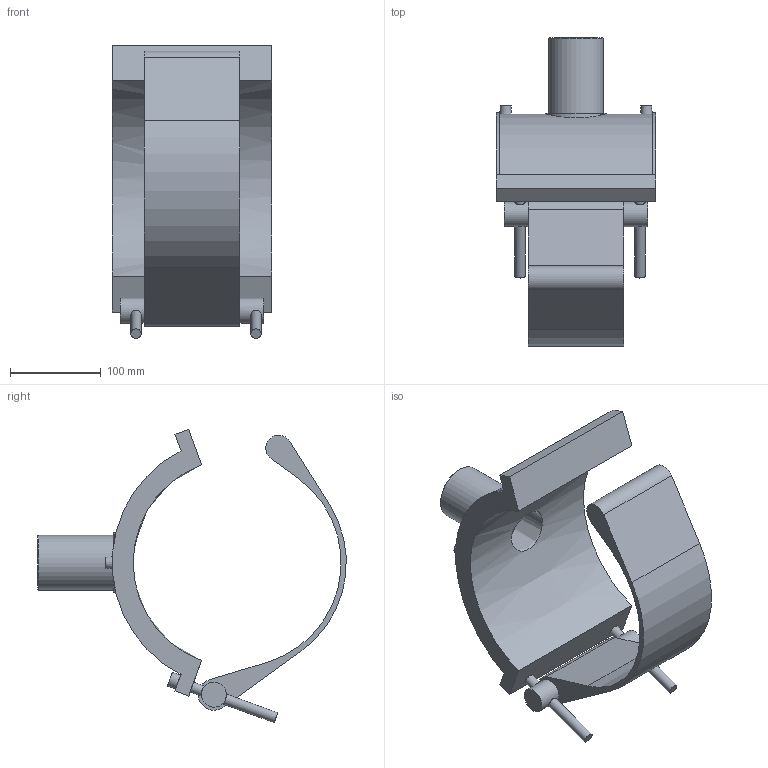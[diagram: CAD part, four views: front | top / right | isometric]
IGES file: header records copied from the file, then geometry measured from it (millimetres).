
Global section: file name: 5958DB03080020.ipt; native system: Autodesk Inventor 2019; preprocessor: unknown; author: KIM; date: 20210830.101323; units: inch
Bounding box: 176.02 x 339.32 x 322.64 mm (x, y, z)
Volume: 1863849.6 mm3; surface area: 285550.9 mm2
Topology: 1 solids, 1 shells, 57 faces, 124 edges, 85 vertices
Faces by surface type: plane 30, cylinder 18, revolution 6, cone 3
Full cylindrical faces by diameter (mm): 4 x2, 11.445 x4, 16.023 x2, 27.468 x2, 60.1 x1, 66.11 x1
